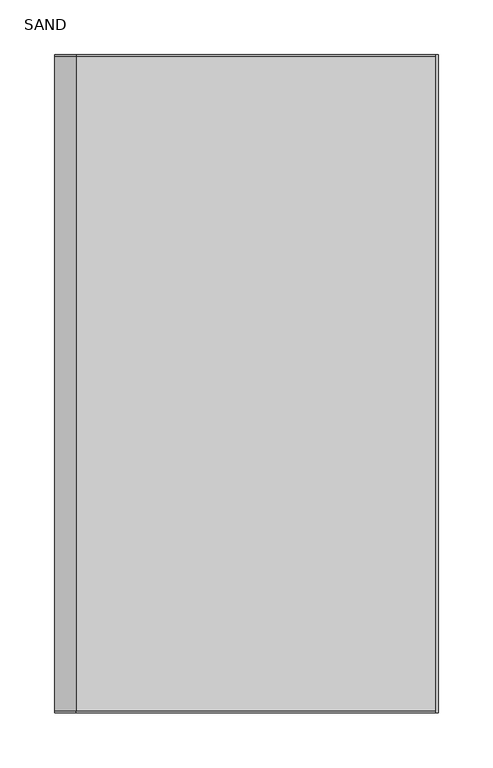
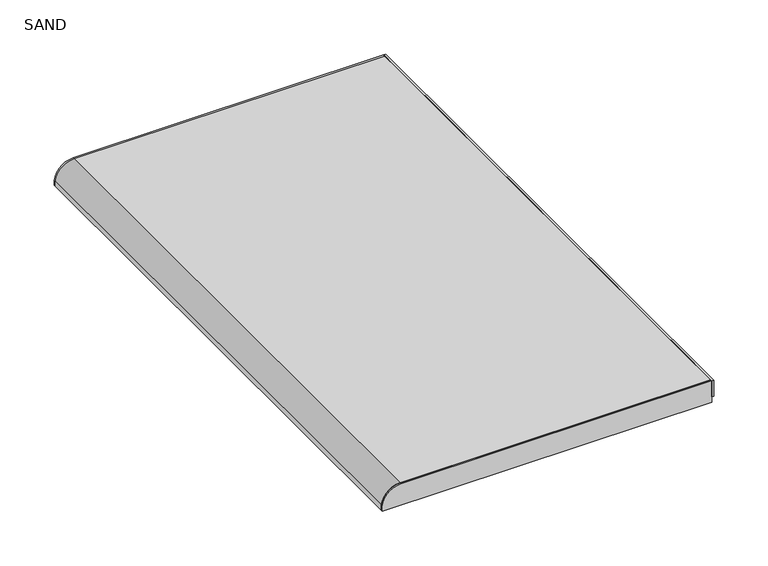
"""IFC4 building model written with IfcOpenShell, lengths in millimetres: proxy geometry, BORDA MONOLITH STEP SAND 35X60 EXT BOLD : SAND."""

from ifc_helpers import new_model, si_unit, point, frame, frame_2d, origin, place, context, project, spatial, polyline, circle_curve, trimmed, segment, composite_curve, outline, extrude, source, transform, mapped, element, save


def sand_d70d5525(model_context):
    return source(origin(), model_context, "Body", "SweptSolid", [
        extrude(outline(polyline([(110.0017831, 302.0), (110.0017831, -302.0), (108.0017831, -302.0), (108.0017831, 302.0), (110.0017831, 302.0)])), frame((0.0, 0.0, -18.0000002), z_axis=(0.0, 0.0, 1.0), x_axis=(1.0, 0.0, 0.0)), (0.0, 0.0, 1.0), 18.0000002),
        extrude(outline(composite_curve([segment(polyline([(0.0, 108.0017831), (0.0, -222.108794)]), True, "CONTINUOUS"), segment(trimmed(circle_curve(frame_2d((-20.2271524, -221.8946941)), 20.2282854), [point((0.0, -222.108794))], [point((-17.9840003, -241.9982212))], False, "CARTESIAN"), True, "CONTINUOUS"), segment(polyline([(-17.9840003, -241.9982212), (-24.0002568, -241.9982212), (-24.0002568, 108.0017831), (0.0, 108.0017831)]), True, "CONTINUOUS")], self_intersect=False)), frame((0.0, -300.0, 0.0), z_axis=(0.0, 1.0, 0.0), x_axis=(0.0, 0.0, 1.0)), (0.0, 0.0, 1.0), 600.0),
        extrude(outline(composite_curve([segment(polyline([(-24.0002568, 108.0017831), (0.0, 108.0017831), (0.0, -222.108794)]), True, "CONTINUOUS"), segment(trimmed(circle_curve(frame_2d((-20.2271524, -221.8946941)), 20.2282854), [point((0.0, -222.108794))], [point((-17.9840003, -241.9982212))], False, "CARTESIAN"), True, "CONTINUOUS"), segment(polyline([(-17.9840003, -241.9982212), (-24.0002568, -241.9982212), (-24.0002568, 108.0017831)]), True, "CONTINUOUS")], self_intersect=False)), frame((0.0, -302.0, 0.0), z_axis=(0.0, 1.0, 0.0), x_axis=(0.0, 0.0, 1.0)), (0.0, 0.0, 1.0), 2.0),
        extrude(outline(composite_curve([segment(polyline([(-24.0002568, 108.0017831), (0.0, 108.0017831), (0.0, -222.108794)]), True, "CONTINUOUS"), segment(trimmed(circle_curve(frame_2d((-20.2271524, -221.8946941)), 20.2282854), [point((0.0, -222.108794))], [point((-17.9840003, -241.9982212))], False, "CARTESIAN"), True, "CONTINUOUS"), segment(polyline([(-17.9840003, -241.9982212), (-24.0002568, -241.9982212), (-24.0002568, 108.0017831)]), True, "CONTINUOUS")], self_intersect=False)), frame((0.0, 300.0, 0.0), z_axis=(0.0, 1.0, 0.0), x_axis=(0.0, 0.0, 1.0)), (0.0, 0.0, 1.0), 2.0),
    ])


if __name__ == "__main__":
    model = new_model("IFC4")
    model_context = context("Model", 3, world=origin())
    ifc_project = project(units=[si_unit("LENGTHUNIT", "METRE", prefix="MILLI")], contexts=[model_context])
    site = spatial("IfcSite", under=ifc_project)
    building = spatial("IfcBuilding", under=site)
    placement = place(None, origin())
    sand_shape = sand_d70d5525(model_context)
    element("IfcBuildingElementProxy", 1, Name="BORDA MONOLITH STEP SAND 35X60 EXT BOLD : SAND", ObjectType="BORDA MONOLITH STEP SAND 35X60 EXT BOLD : SAND", at=placement, inside=building, context=model_context, shape_type="MappedRepresentation", body=[
        mapped(sand_shape, transform((0.0, 0.0, 0.0), x_axis=(1.0, 0.0, 0.0), y_axis=(0.0, 1.0, 0.0), z_axis=(0.0, 0.0, 1.0))),
    ])
    save(model, "model.ifc")
